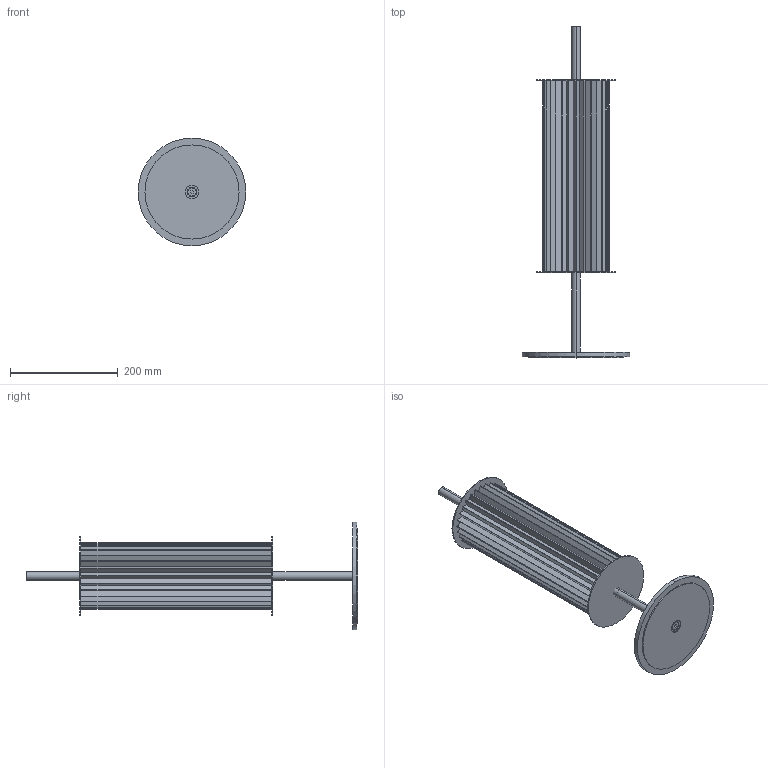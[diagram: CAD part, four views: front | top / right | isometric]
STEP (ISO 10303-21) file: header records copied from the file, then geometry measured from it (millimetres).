
FILE_DESCRIPTION (( 'STEP AP203' ), '1' );
FILE_NAME ('OR.F036.14.STEP', '2026-03-16T14:05:56', ( '' ), ( '' ), 'SwSTEP 2.0', 'SolidWorks 2013', '' );
FILE_SCHEMA (( 'CONFIG_CONTROL_DESIGN' ));
Length unit declared in the file: millimetre
Products named in the file (8): OR.F036.14; TP477_Pantalla plisada ORI (24 plecs); ME052_Tija Ø16x150 M8; AG095_DIN7991 M8x20; AI016_Base cautxu Ø175; GI463-Disc Ø145x2_pas 10; ME053_Disco base Ø200x8_agujero para tornillo DIN7991 M8; ME051_Tub Ø16x100_M10x1
Assembly tree (8 placements, depth 2):
  OR.F036.14
    GI463-Disc Ø145x2_pas 10  x2
    TP477_Pantalla plisada ORI (24 plecs)
    ME052_Tija Ø16x150 M8
    ME051_Tub Ø16x100_M10x1
    ME053_Disco base Ø200x8_agujero para tornillo DIN7991 M8
    AI016_Base cautxu Ø175
    AG095_DIN7991 M8x20
Bounding box: 200 x 617 x 200 mm (x, y, z)
Volume: 495443 mm3; surface area: 649916.4 mm2
Topology: 8 solids, 8 shells, 298 faces, 812 edges, 538 vertices
Faces by surface type: plane 172, cylinder 118, cone 6, torus 2
Entity records: 10392 total; most frequent: CARTESIAN_POINT 1859, DIRECTION 1626, ORIENTED_EDGE 1600, EDGE_CURVE 800, LINE 564, VECTOR 564, AXIS2_PLACEMENT_3D 531, VERTEX_POINT 530
